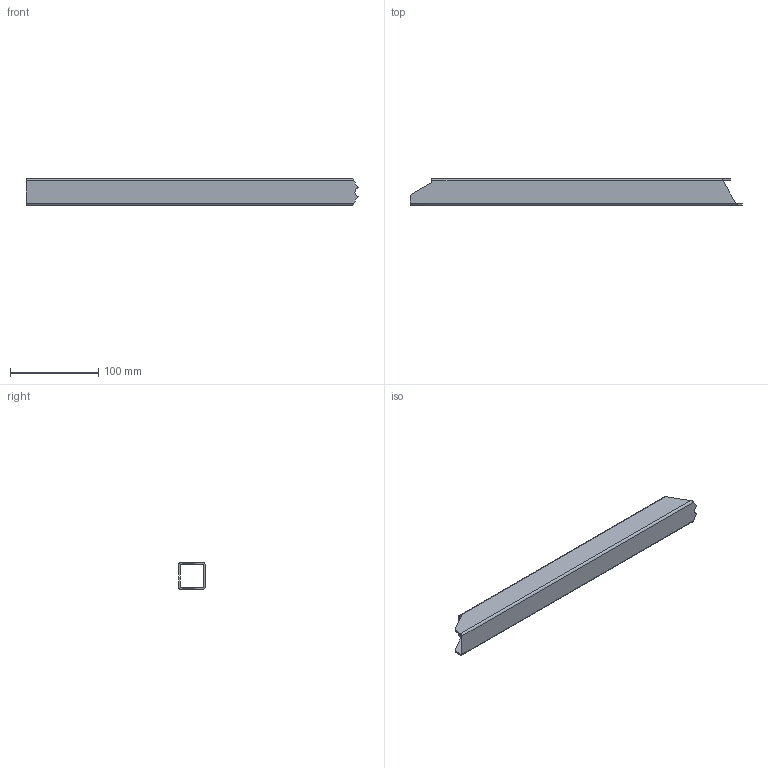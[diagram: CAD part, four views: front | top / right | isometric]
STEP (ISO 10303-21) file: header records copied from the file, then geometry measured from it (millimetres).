
FILE_DESCRIPTION (( 'STEP AP203' ), '1' );
FILE_NAME ('3 Ayak Merkez.STEP', '2020-12-18T14:21:05', ( 'PC' ), ( '' ), 'SwSTEP 2.0', 'SolidWorks 2015', '' );
FILE_SCHEMA (( 'CONFIG_CONTROL_DESIGN' ));
Length unit declared in the file: millimetre
Products named in the file (1): 3 Ayak Merkez
Bounding box: 376.72 x 30 x 30 mm (x, y, z)
Volume: 58608.1 mm3; surface area: 79563.5 mm2
Topology: 1 solids, 1 shells, 53 faces, 121 edges, 70 vertices
Faces by surface type: plane 31, cylinder 12, bspline 10
Entity records: 1704 total; most frequent: CARTESIAN_POINT 547, ORIENTED_EDGE 242, DIRECTION 201, EDGE_CURVE 121, VECTOR 81, LINE 81, VERTEX_POINT 70, AXIS2_PLACEMENT_3D 60
